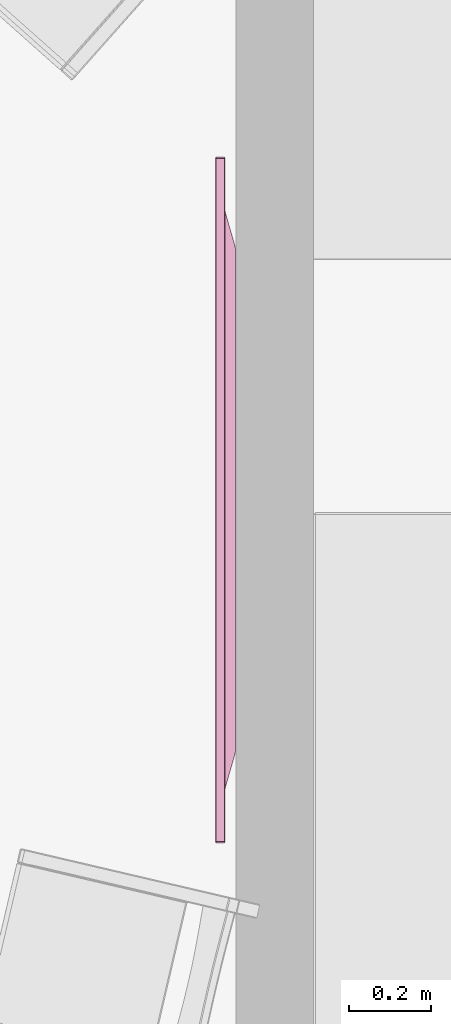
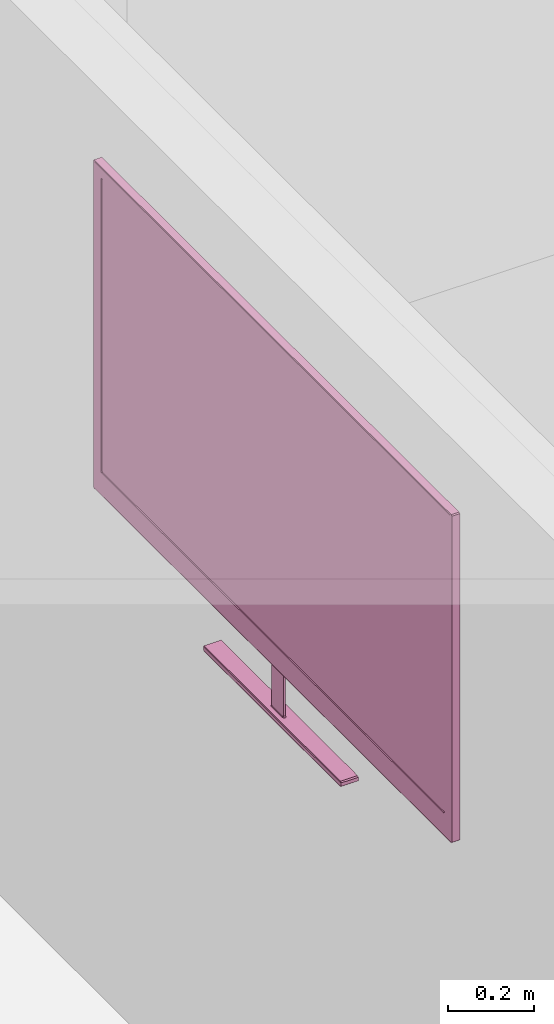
# One storey, part 24 of 26: 1 furniture element.
"""IFC4 building model written with IfcOpenShell, lengths in metres."""

from ifc_helpers import new_model, si_unit, direction, frame, origin_with_axes, place, context, project, spatial, polygons, type_object, element, save


model = new_model("IFC4")

# Units and contexts
model_context = context("Model", 3, precision=1e-05, world=origin_with_axes(), true_north=direction((0.996, -0.093, 0.0)))
ifc_project = project(units=[si_unit("LENGTHUNIT", "METRE"), si_unit("AREAUNIT", "SQUARE_METRE")], contexts=[model_context])

# Site, building, storey, space
site_placement = place(None, origin_with_axes())
site = spatial("IfcSite", under=ifc_project, at=site_placement, Name="Site", CompositionType="ELEMENT")
building_placement = place(site_placement, origin_with_axes())
building = spatial("IfcBuilding", under=site, at=building_placement, Name="Building", CompositionType="ELEMENT")
storey_placement = place(building_placement, frame((0.0, 0.0, 0.0500001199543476), z_axis=(0.0, 0.0, 1.0), x_axis=(1.0, 0.0, 0.0)))
storey = spatial("IfcBuildingStorey", under=building, at=storey_placement, Name="Story 0", CompositionType="ELEMENT", Elevation=0.0500000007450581)
space_placement = place(storey_placement, frame((14.3044458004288, 7.25731328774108, 0.0), z_axis=(0.0, 0.0, 1.0), x_axis=(1.0, 0.0, 0.0)))
space = spatial("IfcSpace", under=storey, at=space_placement, Name="017", CompositionType="ELEMENT")

# Furniture
furniture_type = type_object("IfcFurnitureType", Name="dd4c60c1-d290-4a45-8217-7a810ace9002", AssemblyPlace="NOTDEFINED", PredefinedType="USERDEFINED")
furniture_placement = place(space_placement, frame((8.5955938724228, 2.0220522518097, 1.88084955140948), z_axis=(0.0, 0.0, 1.0), x_axis=(-1.0, 0.0, 0.0)))
element("IfcFurniture", 1, at=furniture_placement, inside=space, type_object=furniture_type, Name="Television", ObjectType="Television", PredefinedType="USERDEFINED", context=model_context, shape_type="Tessellation", body=[
    polygons([(0.0175, -0.7913, -0.3209), (0.0175, 0.7913, -0.3209), (0.0175, -0.7945, -0.3179), (0.0175, -0.7945, 0.5031), (0.0175, -0.7945, -0.3179), (0.0175, -0.7913, 0.5061), (0.0175, 0.7913, 0.5061), (0.0175, -0.7913, 0.5061), (0.0175, 0.7945, 0.5031), (0.0175, -0.7913, 0.5061), (0.0175, -0.7945, -0.3179), (0.0175, 0.7945, 0.5031), (0.0175, -0.7945, -0.3179), (0.0175, 0.7913, -0.3209), (0.0175, 0.7945, 0.5031), (0.0175, 0.7913, -0.3209), (0.0175, 0.7945, -0.3179), (0.0175, 0.7945, 0.5031), (0.0018, -0.8345, 0.5399), (0.0018, -0.8345, -0.387), (0.0231, -0.8345, 0.5399), (0.0231, -0.8345, -0.387), (0.0231, -0.8345, 0.5399), (0.0018, -0.8345, -0.387), (0.0018, 0.8345, -0.387), (0.0018, 0.8345, 0.5399), (0.0231, 0.8345, -0.387), (0.0231, 0.8345, 0.5399), (0.0231, 0.8345, -0.387), (0.0018, 0.8345, 0.5399), (0.0018, 0.8314, 0.5427), (0.0018, -0.8314, 0.5427), (0.0231, 0.8314, 0.5427), (0.0231, -0.8314, 0.5427), (0.0231, 0.8314, 0.5427), (0.0018, -0.8314, 0.5427), (0.0087, -0.0288, -0.3564), (0.0037, -0.0288, -0.3564), (0.0087, -0.0288, -0.5242), (0.0037, -0.0288, -0.5242), (0.0087, -0.0288, -0.5242), (0.0037, -0.0288, -0.3564), (0.0098, 0.0228, -0.3564), (0.0098, -0.0257, -0.3564), (0.0098, 0.0228, -0.5242), (0.0098, -0.0257, -0.5242), (0.0098, 0.0228, -0.5242), (0.0098, -0.0257, -0.3564), (0.0037, 0.0259, -0.3564), (0.0087, 0.0259, -0.3564), (0.0037, 0.0259, -0.5242), (0.0087, 0.0259, -0.5242), (0.0037, 0.0259, -0.5242), (0.0087, 0.0259, -0.3564), (-0.0243, 0.6117, -0.2184), (-0.0243, -0.6117, -0.2184), (-0.0243, 0.6117, 0.3713), (-0.0243, -0.6117, 0.3713), (-0.0243, 0.6117, 0.3713), (-0.0243, -0.6117, -0.2184), (0.0026, 0.0228, -0.5242), (0.0026, -0.0257, -0.5242), (0.0026, 0.0228, -0.3564), (0.0026, -0.0257, -0.3564), (0.0026, 0.0228, -0.3564), (0.0026, -0.0257, -0.5242), (0.0231, -0.8314, -0.3898), (0.0018, -0.8314, -0.3898), (0.0231, 0.8314, -0.3898), (0.0018, 0.8314, -0.3898), (0.0231, 0.8314, -0.3898), (0.0018, -0.8314, -0.3898), (-0.023, -0.3191, -0.5427), (-0.023, 0.3163, -0.5427), (0.0232, -0.3191, -0.5427), (0.0232, 0.3163, -0.5427), (0.0232, -0.3191, -0.5427), (-0.023, 0.3163, -0.5427), (0.0242, -0.7988, -0.3294), (0.0242, -0.8295, -0.387), (0.0242, 0.7988, -0.3294), (0.0242, 0.8295, -0.387), (0.0242, 0.7988, -0.3294), (0.0242, -0.8295, -0.387), (0.0242, -0.8038, 0.5106), (0.0242, -0.8314, 0.5359), (0.0242, -0.8038, -0.3259), (0.0242, -0.8314, -0.3776), (0.0242, -0.8038, -0.3259), (0.0242, -0.8314, 0.5359), (0.0242, 0.7994, 0.5146), (0.0242, 0.827, 0.5399), (0.0242, -0.7994, 0.5146), (0.0242, -0.827, 0.5399), (0.0242, -0.7994, 0.5146), (0.0242, 0.827, 0.5399), (0.0242, 0.8314, -0.3776), (0.0242, 0.8314, 0.5359), (0.0242, 0.8038, -0.3259), (0.0242, 0.8038, 0.5106), (0.0242, 0.8038, -0.3259), (0.0242, 0.8314, 0.5359), (0.0175, -0.7913, -0.3209), (0.0231, -0.7965, -0.3257), (0.0175, 0.7913, -0.3209), (0.0231, 0.7965, -0.3257), (0.0175, 0.7913, -0.3209), (0.0231, -0.7965, -0.3257), (0.0175, -0.7945, 0.5031), (0.0231, -0.7997, 0.5079), (0.0175, -0.7945, -0.3179), (0.0231, -0.7997, -0.3227), (0.0175, -0.7945, -0.3179), (0.0231, -0.7997, 0.5079), (0.0175, 0.7913, 0.5061), (0.0231, 0.7965, 0.5109), (0.0175, -0.7913, 0.5061), (0.0231, -0.7965, 0.5109), (0.0175, -0.7913, 0.5061), (0.0231, 0.7965, 0.5109), (0.0175, 0.7945, -0.3179), (0.0231, 0.7997, -0.3227), (0.0175, 0.7945, 0.5031), (0.0231, 0.7997, 0.5079), (0.0175, 0.7945, 0.5031), (0.0231, 0.7997, -0.3227), (0.0007, -0.7044, -0.2733), (0.0007, -0.8314, -0.3833), (0.0007, -0.7044, 0.4262), (0.0007, -0.8314, 0.5361), (0.0007, -0.7044, 0.4262), (0.0007, -0.8314, -0.3833), (0.0007, 0.7001, -0.2774), (0.0007, 0.8267, -0.387), (0.0007, -0.7001, -0.2774), (0.0007, -0.8267, -0.387), (0.0007, -0.7001, -0.2774), (0.0007, 0.8267, -0.387), (0.0007, 0.7044, 0.4262), (0.0007, 0.8314, 0.5361), (0.0007, 0.7044, -0.2733), (0.0007, 0.8314, -0.3833), (0.0007, 0.7044, -0.2733), (0.0007, 0.8314, 0.5361), (0.0007, -0.7001, 0.4303), (0.0007, -0.8267, 0.5399), (0.0007, 0.7001, 0.4303), (0.0007, 0.8267, 0.5399), (0.0007, 0.7001, 0.4303), (0.0007, -0.8267, 0.5399), (-0.0236, -0.6172, 0.3724), (-0.0236, -0.6172, -0.2196), (0.0, -0.6989, 0.4227), (0.0, -0.6989, -0.2698), (0.0, -0.6989, 0.4227), (-0.0236, -0.6172, -0.2196), (-0.0234, -0.6134, -0.2231), (-0.0234, 0.6134, -0.2231), (-0.0002, -0.6941, -0.2727), (-0.0002, 0.6941, -0.2727), (-0.0002, -0.6941, -0.2727), (-0.0234, 0.6134, -0.2231), (-0.0236, 0.6172, -0.2196), (-0.0236, 0.6172, 0.3724), (0.0, 0.6989, -0.2698), (0.0, 0.6989, 0.4227), (0.0, 0.6989, -0.2698), (-0.0236, 0.6172, 0.3724), (-0.0234, 0.6134, 0.376), (-0.0234, -0.6134, 0.376), (-0.0002, 0.6941, 0.4256), (-0.0002, -0.6941, 0.4256), (-0.0002, 0.6941, 0.4256), (-0.0234, -0.6134, 0.376), (0.0243, 0.3163, -0.5399), (0.0243, 0.3163, -0.53), (0.0243, -0.3191, -0.5399), (0.0243, -0.3191, -0.53), (0.0243, -0.3191, -0.5399), (0.0243, 0.3163, -0.53), (-0.023, 0.3194, -0.5399), (-0.023, 0.3194, -0.53), (0.0232, 0.3194, -0.5399), (0.0232, 0.3194, -0.53), (0.0232, 0.3194, -0.5399), (-0.023, 0.3194, -0.53), (-0.0241, -0.3191, -0.5399), (-0.0241, -0.3191, -0.53), (-0.0241, 0.3163, -0.5399), (-0.0241, 0.3163, -0.53), (-0.0241, 0.3163, -0.5399), (-0.0241, -0.3191, -0.53), (0.0232, -0.3222, -0.5399), (0.0232, -0.3222, -0.53), (-0.023, -0.3222, -0.5399), (-0.023, -0.3222, -0.53), (-0.023, -0.3222, -0.5399), (0.0232, -0.3222, -0.53), (-0.0227, -0.3191, -0.5272), (0.023, -0.3191, -0.5272), (0.0035, -0.0318, -0.527), (0.0088, -0.0318, -0.527), (0.0035, -0.0318, -0.527), (0.023, -0.3191, -0.5272), (0.0015, 0.0255, -0.527), (-0.023, 0.2945, -0.5272), (0.0015, -0.0284, -0.527), (-0.023, -0.2973, -0.5272), (0.0015, -0.0284, -0.527), (-0.023, 0.2945, -0.5272), (0.0088, 0.029, -0.527), (0.023, 0.3163, -0.5272), (0.0035, 0.029, -0.527), (-0.0227, 0.3163, -0.5272), (0.0035, 0.029, -0.527), (0.023, 0.3163, -0.5272), (0.0109, -0.0285, -0.527), (0.0232, -0.2767, -0.5271), (0.0109, 0.0257, -0.527), (0.0232, 0.2738, -0.5271), (0.0109, 0.0257, -0.527), (0.0232, -0.2767, -0.5271), (0.021, -0.8162, -0.3372), (0.021, 0.8162, -0.3372), (0.021, -0.8162, 0.5224), (0.021, 0.8162, 0.5224), (0.021, -0.8162, 0.5224), (0.021, 0.8162, -0.3372), (0.0242, -0.827, 0.5399), (0.0231, -0.8314, 0.5427), (0.0242, -0.8314, 0.5359), (0.0231, -0.8345, 0.5399), (0.0242, -0.8314, 0.5359), (0.0231, -0.8314, 0.5427), (0.0007, 0.8267, 0.5399), (0.0018, 0.8314, 0.5427), (0.0007, 0.8314, 0.5361), (0.0018, 0.8345, 0.5399), (0.0007, 0.8314, 0.5361), (0.0018, 0.8314, 0.5427), (0.0242, 0.8314, 0.5359), (0.0231, 0.8345, 0.5399), (0.0242, 0.827, 0.5399), (0.0231, 0.8314, 0.5427), (0.0242, 0.827, 0.5399), (0.0231, 0.8345, 0.5399), (0.0035, -0.0318, -0.527), (0.0037, -0.0288, -0.5242), (0.0015, -0.0284, -0.527), (0.0026, -0.0257, -0.5242), (0.0015, -0.0284, -0.527), (0.0037, -0.0288, -0.5242), (0.0088, -0.0318, -0.527), (0.0109, -0.0285, -0.527), (0.0087, -0.0288, -0.5242), (0.0098, -0.0257, -0.5242), (0.0087, -0.0288, -0.5242), (0.0109, -0.0285, -0.527), (0.0088, 0.029, -0.527), (0.0087, 0.0259, -0.5242), (0.0109, 0.0257, -0.527), (0.0098, 0.0228, -0.5242), (0.0109, 0.0257, -0.527), (0.0087, 0.0259, -0.5242), (-0.0234, -0.6134, 0.376), (-0.0243, -0.6117, 0.3713), (-0.0236, -0.6172, 0.3724), (0.0035, 0.029, -0.527), (0.0015, 0.0255, -0.527), (0.0037, 0.0259, -0.5242), (0.0026, 0.0228, -0.5242), (0.0037, 0.0259, -0.5242), (0.0015, 0.0255, -0.527), (0.0007, -0.8267, -0.387), (0.0018, -0.8314, -0.3898), (0.0007, -0.8314, -0.3833), (0.0018, -0.8345, -0.387), (0.0007, -0.8314, -0.3833), (0.0018, -0.8314, -0.3898), (0.0242, -0.8314, -0.3776), (0.0231, -0.8345, -0.387), (0.0242, -0.8295, -0.387), (0.0231, -0.8314, -0.3898), (0.0242, -0.8295, -0.387), (0.0231, -0.8345, -0.387), (0.0232, -0.3222, -0.5399), (0.0232, -0.3191, -0.5427), (0.0243, -0.3191, -0.5399), (0.0242, 0.8314, -0.3776), (0.0242, 0.8295, -0.387), (0.0231, 0.8345, -0.387), (0.0231, 0.8314, -0.3898), (0.0231, 0.8345, -0.387), (0.0242, 0.8295, -0.387), (0.0231, -0.7997, -0.3227), (0.0242, -0.8038, -0.3259), (0.0231, -0.7965, -0.3257), (0.0242, -0.7988, -0.3294), (0.0231, -0.7965, -0.3257), (0.0242, -0.8038, -0.3259), (0.0231, -0.7965, 0.5109), (0.0242, -0.7994, 0.5146), (0.0231, -0.7997, 0.5079), (0.0242, -0.8038, 0.5106), (0.0231, -0.7997, 0.5079), (0.0242, -0.7994, 0.5146), (0.0231, 0.7997, 0.5079), (0.0242, 0.8038, 0.5106), (0.0231, 0.7965, 0.5109), (0.0242, 0.7994, 0.5146), (0.0231, 0.7965, 0.5109), (0.0242, 0.8038, 0.5106), (0.0231, 0.7997, -0.3227), (0.0231, 0.7965, -0.3257), (0.0242, 0.8038, -0.3259), (0.0242, 0.7988, -0.3294), (0.0242, 0.8038, -0.3259), (0.0231, 0.7965, -0.3257), (0.0007, -0.8267, 0.5399), (0.0007, -0.8314, 0.5361), (0.0018, -0.8314, 0.5427), (0.0018, -0.8345, 0.5399), (0.0018, -0.8314, 0.5427), (0.0007, -0.8314, 0.5361), (-0.0002, -0.6941, 0.4256), (0.0, -0.6989, 0.4227), (0.0007, -0.7001, 0.4303), (0.0007, -0.7044, 0.4262), (0.0007, -0.7001, 0.4303), (0.0, -0.6989, 0.4227), (-0.0002, -0.6941, -0.2727), (0.0007, -0.7001, -0.2774), (0.0, -0.6989, -0.2698), (0.0007, -0.7044, -0.2733), (0.0, -0.6989, -0.2698), (0.0007, -0.7001, -0.2774), (0.0007, 0.8267, -0.387), (0.0007, 0.8314, -0.3833), (0.0018, 0.8314, -0.3898), (0.0018, 0.8345, -0.387), (0.0018, 0.8314, -0.3898), (0.0007, 0.8314, -0.3833), (-0.0002, 0.6941, -0.2727), (0.0, 0.6989, -0.2698), (0.0007, 0.7001, -0.2774), (0.0007, 0.7044, -0.2733), (0.0007, 0.7001, -0.2774), (0.0, 0.6989, -0.2698), (-0.0002, 0.6941, 0.4256), (0.0007, 0.7001, 0.4303), (0.0, 0.6989, 0.4227), (0.0007, 0.7044, 0.4262), (0.0, 0.6989, 0.4227), (0.0007, 0.7001, 0.4303), (-0.0234, -0.6134, -0.2231), (-0.0236, -0.6172, -0.2196), (-0.0243, -0.6117, -0.2184), (-0.0236, 0.6172, -0.2196), (-0.0234, 0.6134, -0.2231), (-0.0243, 0.6117, -0.2184), (-0.0234, 0.6134, 0.376), (-0.0236, 0.6172, 0.3724), (-0.0243, 0.6117, 0.3713), (0.0232, 0.3194, -0.5399), (0.0243, 0.3163, -0.5399), (0.0232, 0.3163, -0.5427), (-0.0241, 0.3163, -0.5399), (-0.023, 0.3194, -0.5399), (-0.023, 0.3163, -0.5427), (-0.023, -0.3222, -0.5399), (-0.0241, -0.3191, -0.5399), (-0.023, -0.3191, -0.5427), (-0.023, -0.2973, -0.5272), (-0.0241, -0.3191, -0.53), (-0.0227, -0.3191, -0.5272), (-0.023, -0.3222, -0.53), (-0.0227, -0.3191, -0.5272), (-0.0241, -0.3191, -0.53), (0.0232, -0.2767, -0.5271), (0.023, -0.3191, -0.5272), (0.0243, -0.3191, -0.53), (0.0232, -0.3222, -0.53), (0.0243, -0.3191, -0.53), (0.023, -0.3191, -0.5272), (-0.023, 0.2945, -0.5272), (-0.0227, 0.3163, -0.5272), (-0.0241, 0.3163, -0.53), (-0.023, 0.3194, -0.53), (-0.0241, 0.3163, -0.53), (-0.0227, 0.3163, -0.5272), (0.0232, 0.3194, -0.53), (0.023, 0.3163, -0.5272), (0.0243, 0.3163, -0.53), (0.0232, 0.2738, -0.5271), (0.0243, 0.3163, -0.53), (0.023, 0.3163, -0.5272), (0.0231, -0.8345, -0.387), (0.0018, -0.8345, -0.387), (0.0231, -0.8314, -0.3898), (0.0018, -0.8314, -0.3898), (0.0231, -0.8314, -0.3898), (0.0018, -0.8345, -0.387), (0.0018, -0.8345, 0.5399), (0.0231, -0.8345, 0.5399), (0.0018, -0.8314, 0.5427), (0.0231, -0.8314, 0.5427), (0.0018, -0.8314, 0.5427), (0.0231, -0.8345, 0.5399), (0.0231, 0.8345, 0.5399), (0.0018, 0.8345, 0.5399), (0.0231, 0.8314, 0.5427), (0.0018, 0.8314, 0.5427), (0.0231, 0.8314, 0.5427), (0.0018, 0.8345, 0.5399), (0.0018, 0.8345, -0.387), (0.0231, 0.8345, -0.387), (0.0018, 0.8314, -0.3898), (0.0231, 0.8314, -0.3898), (0.0018, 0.8314, -0.3898), (0.0231, 0.8345, -0.387), (0.0037, -0.0288, -0.5242), (0.0037, -0.0288, -0.3564), (0.0026, -0.0257, -0.5242), (0.0026, -0.0257, -0.3564), (0.0026, -0.0257, -0.5242), (0.0037, -0.0288, -0.3564), (0.0087, -0.0288, -0.3564), (0.0087, -0.0288, -0.5242), (0.0098, -0.0257, -0.3564), (0.0098, -0.0257, -0.5242), (0.0098, -0.0257, -0.3564), (0.0087, -0.0288, -0.5242), (0.0098, 0.0228, -0.3564), (0.0098, 0.0228, -0.5242), (0.0087, 0.0259, -0.3564), (0.0087, 0.0259, -0.5242), (0.0087, 0.0259, -0.3564), (0.0098, 0.0228, -0.5242), (0.0037, 0.0259, -0.3564), (0.0037, 0.0259, -0.5242), (0.0026, 0.0228, -0.3564), (0.0026, 0.0228, -0.5242), (0.0026, 0.0228, -0.3564), (0.0037, 0.0259, -0.5242), (-0.0243, -0.6117, 0.3713), (-0.0243, -0.6117, -0.2184), (-0.0236, -0.6172, 0.3724), (-0.0236, -0.6172, -0.2196), (-0.0236, -0.6172, 0.3724), (-0.0243, -0.6117, -0.2184), (-0.0243, -0.6117, -0.2184), (-0.0243, 0.6117, -0.2184), (-0.0234, -0.6134, -0.2231), (-0.0234, 0.6134, -0.2231), (-0.0234, -0.6134, -0.2231), (-0.0243, 0.6117, -0.2184), (-0.0243, 0.6117, -0.2184), (-0.0243, 0.6117, 0.3713), (-0.0236, 0.6172, -0.2196), (-0.0236, 0.6172, 0.3724), (-0.0236, 0.6172, -0.2196), (-0.0243, 0.6117, 0.3713), (-0.0243, 0.6117, 0.3713), (-0.0243, -0.6117, 0.3713), (-0.0234, 0.6134, 0.376), (-0.0234, -0.6134, 0.376), (-0.0234, 0.6134, 0.376), (-0.0243, -0.6117, 0.3713), (0.0232, 0.3163, -0.5427), (-0.023, 0.3163, -0.5427), (0.0232, 0.3194, -0.5399), (-0.023, 0.3194, -0.5399), (0.0232, 0.3194, -0.5399), (-0.023, 0.3163, -0.5427), (-0.023, 0.3163, -0.5427), (-0.023, -0.3191, -0.5427), (-0.0241, 0.3163, -0.5399), (-0.0241, -0.3191, -0.5399), (-0.0241, 0.3163, -0.5399), (-0.023, -0.3191, -0.5427), (-0.023, -0.3191, -0.5427), (0.0232, -0.3191, -0.5427), (-0.023, -0.3222, -0.5399), (0.0232, -0.3222, -0.5399), (-0.023, -0.3222, -0.5399), (0.0232, -0.3191, -0.5427), (0.0232, -0.3191, -0.5427), (0.0232, 0.3163, -0.5427), (0.0243, -0.3191, -0.5399), (0.0243, 0.3163, -0.5399), (0.0243, -0.3191, -0.5399), (0.0232, 0.3163, -0.5427), (0.0242, 0.8295, -0.387), (0.0242, -0.8295, -0.387), (0.0231, 0.8314, -0.3898), (0.0231, -0.8314, -0.3898), (0.0231, 0.8314, -0.3898), (0.0242, -0.8295, -0.387), (0.0242, -0.8295, -0.387), (0.0242, -0.7988, -0.3294), (0.0242, -0.8314, -0.3776), (0.0242, -0.8038, -0.3259), (0.0242, -0.8314, -0.3776), (0.0242, -0.7988, -0.3294), (0.0242, -0.8314, -0.3776), (0.0242, -0.8314, 0.5359), (0.0231, -0.8345, -0.387), (0.0231, -0.8345, 0.5399), (0.0231, -0.8345, -0.387), (0.0242, -0.8314, 0.5359), (0.0242, -0.8314, 0.5359), (0.0242, -0.8038, 0.5106), (0.0242, -0.827, 0.5399), (0.0242, -0.7994, 0.5146), (0.0242, -0.827, 0.5399), (0.0242, -0.8038, 0.5106), (0.0242, -0.827, 0.5399), (0.0242, 0.827, 0.5399), (0.0231, -0.8314, 0.5427), (0.0231, 0.8314, 0.5427), (0.0231, -0.8314, 0.5427), (0.0242, 0.827, 0.5399), (0.0242, 0.827, 0.5399), (0.0242, 0.7994, 0.5146), (0.0242, 0.8314, 0.5359), (0.0242, 0.8038, 0.5106), (0.0242, 0.8314, 0.5359), (0.0242, 0.7994, 0.5146), (0.0242, 0.8314, 0.5359), (0.0242, 0.8314, -0.3776), (0.0231, 0.8345, 0.5399), (0.0231, 0.8345, -0.387), (0.0231, 0.8345, 0.5399), (0.0242, 0.8314, -0.3776), (0.0242, 0.8314, -0.3776), (0.0242, 0.8038, -0.3259), (0.0242, 0.8295, -0.387), (0.0242, 0.7988, -0.3294), (0.0242, 0.8295, -0.387), (0.0242, 0.8038, -0.3259), (0.0231, 0.7965, -0.3257), (0.0231, -0.7965, -0.3257), (0.0242, 0.7988, -0.3294), (0.0242, -0.7988, -0.3294), (0.0242, 0.7988, -0.3294), (0.0231, -0.7965, -0.3257), (0.0231, -0.7965, -0.3257), (0.0175, -0.7913, -0.3209), (0.0231, -0.7997, -0.3227), (0.0175, -0.7945, -0.3179), (0.0231, -0.7997, -0.3227), (0.0175, -0.7913, -0.3209), (0.0231, -0.7997, -0.3227), (0.0231, -0.7997, 0.5079), (0.0242, -0.8038, -0.3259), (0.0242, -0.8038, 0.5106), (0.0242, -0.8038, -0.3259), (0.0231, -0.7997, 0.5079), (0.0231, -0.7997, 0.5079), (0.0175, -0.7945, 0.5031), (0.0231, -0.7965, 0.5109), (0.0175, -0.7913, 0.5061), (0.0231, -0.7965, 0.5109), (0.0175, -0.7945, 0.5031), (0.0231, -0.7965, 0.5109), (0.0231, 0.7965, 0.5109), (0.0242, -0.7994, 0.5146), (0.0242, 0.7994, 0.5146), (0.0242, -0.7994, 0.5146), (0.0231, 0.7965, 0.5109), (0.0231, 0.7965, 0.5109), (0.0175, 0.7913, 0.5061), (0.0231, 0.7997, 0.5079), (0.0175, 0.7945, 0.5031), (0.0231, 0.7997, 0.5079), (0.0175, 0.7913, 0.5061), (0.0231, 0.7997, 0.5079), (0.0231, 0.7997, -0.3227), (0.0242, 0.8038, 0.5106), (0.0242, 0.8038, -0.3259), (0.0242, 0.8038, 0.5106), (0.0231, 0.7997, -0.3227), (0.0231, 0.7997, -0.3227), (0.0175, 0.7945, -0.3179), (0.0231, 0.7965, -0.3257), (0.0175, 0.7913, -0.3209), (0.0231, 0.7965, -0.3257), (0.0175, 0.7945, -0.3179), (0.0007, -0.8314, 0.5361), (0.0007, -0.8314, -0.3833), (0.0018, -0.8345, 0.5399), (0.0018, -0.8345, -0.387), (0.0018, -0.8345, 0.5399), (0.0007, -0.8314, -0.3833), (0.0007, -0.8314, -0.3833), (0.0007, -0.7044, -0.2733), (0.0007, -0.8267, -0.387), (0.0007, -0.7001, -0.2774), (0.0007, -0.8267, -0.387), (0.0007, -0.7044, -0.2733), (0.0007, -0.7044, -0.2733), (0.0007, -0.7044, 0.4262), (0.0, -0.6989, -0.2698), (0.0, -0.6989, 0.4227), (0.0, -0.6989, -0.2698), (0.0007, -0.7044, 0.4262), (0.0007, -0.8267, -0.387), (0.0007, 0.8267, -0.387), (0.0018, -0.8314, -0.3898), (0.0018, 0.8314, -0.3898), (0.0018, -0.8314, -0.3898), (0.0007, 0.8267, -0.387), (0.0007, 0.8267, -0.387), (0.0007, 0.7001, -0.2774), (0.0007, 0.8314, -0.3833), (0.0007, 0.7044, -0.2733), (0.0007, 0.8314, -0.3833), (0.0007, 0.7001, -0.2774), (0.0007, 0.7001, -0.2774), (0.0007, -0.7001, -0.2774), (-0.0002, 0.6941, -0.2727), (-0.0002, -0.6941, -0.2727), (-0.0002, 0.6941, -0.2727), (0.0007, -0.7001, -0.2774), (0.0007, 0.8314, -0.3833), (0.0007, 0.8314, 0.5361), (0.0018, 0.8345, -0.387), (0.0018, 0.8345, 0.5399), (0.0018, 0.8345, -0.387), (0.0007, 0.8314, 0.5361), (0.0007, 0.8314, 0.5361), (0.0007, 0.7044, 0.4262), (0.0007, 0.8267, 0.5399), (0.0007, 0.7001, 0.4303), (0.0007, 0.8267, 0.5399), (0.0007, 0.7044, 0.4262), (0.0007, 0.7044, 0.4262), (0.0007, 0.7044, -0.2733), (0.0, 0.6989, 0.4227), (0.0, 0.6989, -0.2698), (0.0, 0.6989, 0.4227), (0.0007, 0.7044, -0.2733), (0.0007, 0.8267, 0.5399), (0.0007, -0.8267, 0.5399), (0.0018, 0.8314, 0.5427), (0.0018, -0.8314, 0.5427), (0.0018, 0.8314, 0.5427), (0.0007, -0.8267, 0.5399), (0.0007, -0.8267, 0.5399), (0.0007, -0.7001, 0.4303), (0.0007, -0.8314, 0.5361), (0.0007, -0.7044, 0.4262), (0.0007, -0.8314, 0.5361), (0.0007, -0.7001, 0.4303), (0.0007, -0.7001, 0.4303), (0.0007, 0.7001, 0.4303), (-0.0002, -0.6941, 0.4256), (-0.0002, 0.6941, 0.4256), (-0.0002, -0.6941, 0.4256), (0.0007, 0.7001, 0.4303), (0.0, -0.6989, -0.2698), (-0.0236, -0.6172, -0.2196), (-0.0002, -0.6941, -0.2727), (-0.0234, -0.6134, -0.2231), (-0.0002, -0.6941, -0.2727), (-0.0236, -0.6172, -0.2196), (-0.0002, 0.6941, -0.2727), (-0.0234, 0.6134, -0.2231), (0.0, 0.6989, -0.2698), (-0.0236, 0.6172, -0.2196), (0.0, 0.6989, -0.2698), (-0.0234, 0.6134, -0.2231), (0.0, 0.6989, 0.4227), (-0.0236, 0.6172, 0.3724), (-0.0002, 0.6941, 0.4256), (-0.0234, 0.6134, 0.376), (-0.0002, 0.6941, 0.4256), (-0.0236, 0.6172, 0.3724), (-0.0002, -0.6941, 0.4256), (-0.0234, -0.6134, 0.376), (0.0, -0.6989, 0.4227), (-0.0236, -0.6172, 0.3724), (0.0, -0.6989, 0.4227), (-0.0234, -0.6134, 0.376), (0.0243, 0.3163, -0.53), (0.0243, 0.3163, -0.5399), (0.0232, 0.3194, -0.53), (0.0232, 0.3194, -0.5399), (0.0232, 0.3194, -0.53), (0.0243, 0.3163, -0.5399), (-0.023, 0.3194, -0.53), (-0.023, 0.3194, -0.5399), (-0.0241, 0.3163, -0.53), (-0.0241, 0.3163, -0.5399), (-0.0241, 0.3163, -0.53), (-0.023, 0.3194, -0.5399), (-0.0241, -0.3191, -0.53), (-0.0241, -0.3191, -0.5399), (-0.023, -0.3222, -0.53), (-0.023, -0.3222, -0.5399), (-0.023, -0.3222, -0.53), (-0.0241, -0.3191, -0.5399), (0.0232, -0.3222, -0.53), (0.0232, -0.3222, -0.5399), (0.0243, -0.3191, -0.53), (0.0243, -0.3191, -0.5399), (0.0243, -0.3191, -0.53), (0.0232, -0.3222, -0.5399), (0.023, -0.3191, -0.5272), (-0.0227, -0.3191, -0.5272), (0.0232, -0.3222, -0.53), (-0.023, -0.3222, -0.53), (0.0232, -0.3222, -0.53), (-0.0227, -0.3191, -0.5272), (-0.0227, -0.3191, -0.5272), (0.0035, -0.0318, -0.527), (-0.023, -0.2973, -0.5272), (0.0015, -0.0284, -0.527), (-0.023, -0.2973, -0.5272), (0.0035, -0.0318, -0.527), (0.0035, -0.0318, -0.527), (0.0088, -0.0318, -0.527), (0.0037, -0.0288, -0.5242), (0.0087, -0.0288, -0.5242), (0.0037, -0.0288, -0.5242), (0.0088, -0.0318, -0.527), (-0.023, -0.2973, -0.5272), (-0.023, 0.2945, -0.5272), (-0.0241, -0.3191, -0.53), (-0.0241, 0.3163, -0.53), (-0.0241, -0.3191, -0.53), (-0.023, 0.2945, -0.5272), (-0.023, 0.2945, -0.5272), (0.0015, 0.0255, -0.527), (-0.0227, 0.3163, -0.5272), (0.0035, 0.029, -0.527), (-0.0227, 0.3163, -0.5272), (0.0015, 0.0255, -0.527), (0.0015, 0.0255, -0.527), (0.0015, -0.0284, -0.527), (0.0026, 0.0228, -0.5242), (0.0026, -0.0257, -0.5242), (0.0026, 0.0228, -0.5242), (0.0015, -0.0284, -0.527), (-0.0227, 0.3163, -0.5272), (0.023, 0.3163, -0.5272), (-0.023, 0.3194, -0.53), (0.0232, 0.3194, -0.53), (-0.023, 0.3194, -0.53), (0.023, 0.3163, -0.5272), (0.023, 0.3163, -0.5272), (0.0088, 0.029, -0.527), (0.0232, 0.2738, -0.5271), (0.0109, 0.0257, -0.527), (0.0232, 0.2738, -0.5271), (0.0088, 0.029, -0.527), (0.0088, 0.029, -0.527), (0.0035, 0.029, -0.527), (0.0087, 0.0259, -0.5242), (0.0037, 0.0259, -0.5242), (0.0087, 0.0259, -0.5242), (0.0035, 0.029, -0.527), (0.0232, 0.2738, -0.5271), (0.0232, -0.2767, -0.5271), (0.0243, 0.3163, -0.53), (0.0243, -0.3191, -0.53), (0.0243, 0.3163, -0.53), (0.0232, -0.2767, -0.5271), (0.0232, -0.2767, -0.5271), (0.0109, -0.0285, -0.527), (0.023, -0.3191, -0.5272), (0.0088, -0.0318, -0.527), (0.023, -0.3191, -0.5272), (0.0109, -0.0285, -0.527), (0.0109, -0.0285, -0.527), (0.0109, 0.0257, -0.527), (0.0098, -0.0257, -0.5242), (0.0098, 0.0228, -0.5242), (0.0098, -0.0257, -0.5242), (0.0109, 0.0257, -0.527)], [[[1, 2, 3]], [[4, 5, 6]], [[7, 8, 9]], [[10, 11, 12]], [[13, 14, 15]], [[16, 17, 18]], [[19, 20, 21]], [[22, 23, 24]], [[25, 26, 27]], [[28, 29, 30]], [[31, 32, 33]], [[34, 35, 36]], [[37, 38, 39]], [[40, 41, 42]], [[43, 44, 45]], [[46, 47, 48]], [[49, 50, 51]], [[52, 53, 54]], [[55, 56, 57]], [[58, 59, 60]], [[61, 62, 63]], [[64, 65, 66]], [[67, 68, 69]], [[70, 71, 72]], [[73, 74, 75]], [[76, 77, 78]], [[79, 80, 81]], [[82, 83, 84]], [[85, 86, 87]], [[88, 89, 90]], [[91, 92, 93]], [[94, 95, 96]], [[97, 98, 99]], [[100, 101, 102]], [[103, 104, 105]], [[106, 107, 108]], [[109, 110, 111]], [[112, 113, 114]], [[115, 116, 117]], [[118, 119, 120]], [[121, 122, 123]], [[124, 125, 126]], [[127, 128, 129]], [[130, 131, 132]], [[133, 134, 135]], [[136, 137, 138]], [[139, 140, 141]], [[142, 143, 144]], [[145, 146, 147]], [[148, 149, 150]], [[151, 152, 153]], [[154, 155, 156]], [[157, 158, 159]], [[160, 161, 162]], [[163, 164, 165]], [[166, 167, 168]], [[169, 170, 171]], [[172, 173, 174]], [[175, 176, 177]], [[178, 179, 180]], [[181, 182, 183]], [[184, 185, 186]], [[187, 188, 189]], [[190, 191, 192]], [[193, 194, 195]], [[196, 197, 198]], [[199, 200, 201]], [[202, 203, 204]], [[205, 206, 207]], [[208, 209, 210]], [[211, 212, 213]], [[214, 215, 216]], [[217, 218, 219]], [[220, 221, 222]], [[223, 224, 225]], [[226, 227, 228]], [[229, 230, 231]], [[232, 233, 234]], [[235, 236, 237]], [[238, 239, 240]], [[241, 242, 243]], [[244, 245, 246]], [[247, 248, 249]], [[250, 251, 252]], [[253, 254, 255]], [[256, 257, 258]], [[259, 260, 261]], [[262, 263, 264]], [[265, 266, 267]], [[268, 269, 270]], [[271, 272, 273]], [[274, 275, 276]], [[277, 278, 279]], [[280, 281, 282]], [[283, 284, 285]], [[286, 287, 288]], [[289, 290, 291]], [[292, 293, 294]], [[295, 296, 297]], [[298, 299, 300]], [[301, 302, 303]], [[304, 305, 306]], [[307, 308, 309]], [[310, 311, 312]], [[313, 314, 315]], [[316, 317, 318]], [[319, 320, 321]], [[322, 323, 324]], [[325, 326, 327]], [[328, 329, 330]], [[331, 332, 333]], [[334, 335, 336]], [[337, 338, 339]], [[340, 341, 342]], [[343, 344, 345]], [[346, 347, 348]], [[349, 350, 351]], [[352, 353, 354]], [[355, 356, 357]], [[358, 359, 360]], [[361, 362, 363]], [[364, 365, 366]], [[367, 368, 369]], [[370, 371, 372]], [[373, 374, 375]], [[376, 377, 378]], [[379, 380, 381]], [[382, 383, 384]], [[385, 386, 387]], [[388, 389, 390]], [[391, 392, 393]], [[394, 395, 396]], [[397, 398, 399]], [[400, 401, 402]], [[403, 404, 405]], [[406, 407, 408]], [[409, 410, 411]], [[412, 413, 414]], [[415, 416, 417]], [[418, 419, 420]], [[421, 422, 423]], [[424, 425, 426]], [[427, 428, 429]], [[430, 431, 432]], [[433, 434, 435]], [[436, 437, 438]], [[439, 440, 441]], [[442, 443, 444]], [[445, 446, 447]], [[448, 449, 450]], [[451, 452, 453]], [[454, 455, 456]], [[457, 458, 459]], [[460, 461, 462]], [[463, 464, 465]], [[466, 467, 468]], [[469, 470, 471]], [[472, 473, 474]], [[475, 476, 477]], [[478, 479, 480]], [[481, 482, 483]], [[484, 485, 486]], [[487, 488, 489]], [[490, 491, 492]], [[493, 494, 495]], [[496, 497, 498]], [[499, 500, 501]], [[502, 503, 504]], [[505, 506, 507]], [[508, 509, 510]], [[511, 512, 513]], [[514, 515, 516]], [[517, 518, 519]], [[520, 521, 522]], [[523, 524, 525]], [[526, 527, 528]], [[529, 530, 531]], [[532, 533, 534]], [[535, 536, 537]], [[538, 539, 540]], [[541, 542, 543]], [[544, 545, 546]], [[547, 548, 549]], [[550, 551, 552]], [[553, 554, 555]], [[556, 557, 558]], [[559, 560, 561]], [[562, 563, 564]], [[565, 566, 567]], [[568, 569, 570]], [[571, 572, 573]], [[574, 575, 576]], [[577, 578, 579]], [[580, 581, 582]], [[583, 584, 585]], [[586, 587, 588]], [[589, 590, 591]], [[592, 593, 594]], [[595, 596, 597]], [[598, 599, 600]], [[601, 602, 603]], [[604, 605, 606]], [[607, 608, 609]], [[610, 611, 612]], [[613, 614, 615]], [[616, 617, 618]], [[619, 620, 621]], [[622, 623, 624]], [[625, 626, 627]], [[628, 629, 630]], [[631, 632, 633]], [[634, 635, 636]], [[637, 638, 639]], [[640, 641, 642]], [[643, 644, 645]], [[646, 647, 648]], [[649, 650, 651]], [[652, 653, 654]], [[655, 656, 657]], [[658, 659, 660]], [[661, 662, 663]], [[664, 665, 666]], [[667, 668, 669]], [[670, 671, 672]], [[673, 674, 675]], [[676, 677, 678]], [[679, 680, 681]], [[682, 683, 684]], [[685, 686, 687]], [[688, 689, 690]], [[691, 692, 693]], [[694, 695, 696]], [[697, 698, 699]], [[700, 701, 702]], [[703, 704, 705]], [[706, 707, 708]], [[709, 710, 711]], [[712, 713, 714]], [[715, 716, 717]], [[718, 719, 720]], [[721, 722, 723]], [[724, 725, 726]], [[727, 728, 729]], [[730, 731, 732]], [[733, 734, 735]], [[736, 737, 738]], [[739, 740, 741]], [[742, 743, 744]], [[745, 746, 747]], [[748, 749, 750]], [[751, 752, 753]], [[754, 755, 756]], [[757, 758, 759]], [[760, 761, 762]], [[763, 764, 765]], [[766, 767, 768]], [[769, 770, 771]], [[772, 773, 774]], [[775, 776, 777]], [[778, 779, 780]]]),
])

save(model, "model.ifc")
